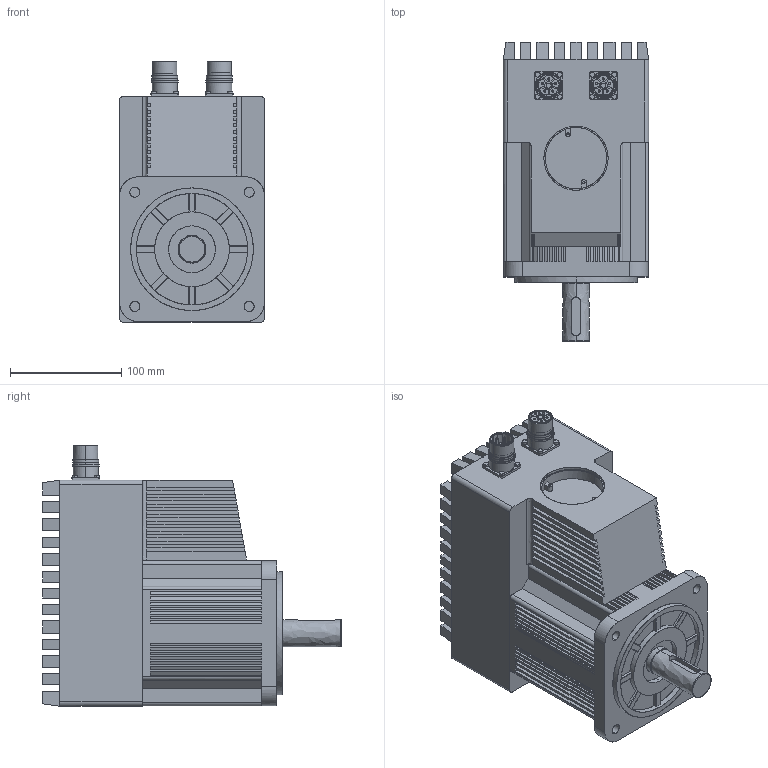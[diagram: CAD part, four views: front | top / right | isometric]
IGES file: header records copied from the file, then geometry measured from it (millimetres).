
Start section: Comment
Global section: file name: MAC1500-D1.igs; native system:  By UGS Corp.; preprocessor: XPlus GENERIC/IGES 3.0; author: Author; organization: Title; date: 20130530.131706; units: millimetre
Bounding box: 130.4 x 268.1 x 233.7 mm (x, y, z)
Surface area: 381468.3 mm2 (no closed solid volume)
Topology: 0 solids, 0 shells, 1304 faces, 6372 edges, 6352 vertices
Faces by surface type: bspline 1304
